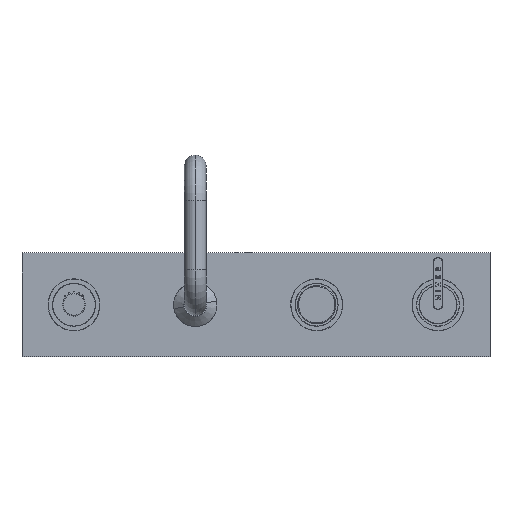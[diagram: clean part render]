
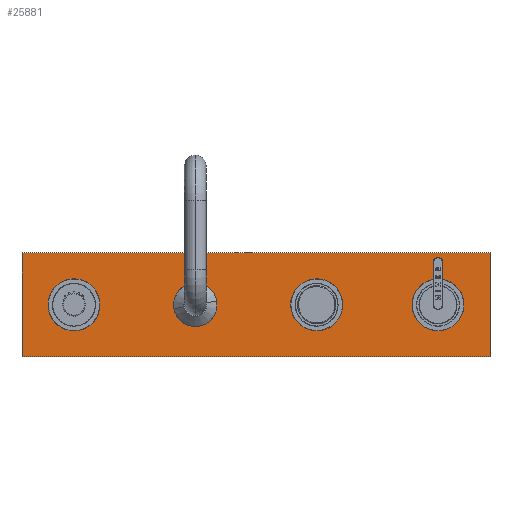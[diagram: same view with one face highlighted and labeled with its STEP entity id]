
A CAD part, top view. The second image highlights one B-rep face of the part: STEP entity #25881.
In plain terms, the highlighted planar face has unit normal (0, 0, 1).
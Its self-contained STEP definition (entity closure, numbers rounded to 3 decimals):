
#594 = ORIENTED_EDGE ( 'NONE', *, *, #28088, .T. ) ;
#1848 = DIRECTION ( 'NONE',  ( 1., 0., 0. ) ) ;
#1934 = FACE_BOUND ( 'NONE', #39242, .T. ) ;
#2667 = CARTESIAN_POINT ( 'NONE',  ( -70., 0., 30. ) ) ;
#2764 = CARTESIAN_POINT ( 'NONE',  ( 70., 0., 30. ) ) ;
#3057 = VERTEX_POINT ( 'NONE', #40860 ) ;
#3197 = CARTESIAN_POINT ( 'NONE',  ( 210., 0., 30. ) ) ;
#3587 = EDGE_CURVE ( 'NONE', #11031, #49453, #28342, .T. ) ;
#4043 = ORIENTED_EDGE ( 'NONE', *, *, #50286, .T. ) ;
#5194 = CIRCLE ( 'NONE', #23969, 15. ) ;
#5533 = DIRECTION ( 'NONE',  ( 1., 0., 0. ) ) ;
#5765 = DIRECTION ( 'NONE',  ( 0., 1., 0. ) ) ;
#5810 = EDGE_CURVE ( 'NONE', #51748, #35133, #5194, .T. ) ;
#5964 = CARTESIAN_POINT ( 'NONE',  ( 270., 60., 30. ) ) ;
#5995 = DIRECTION ( 'NONE',  ( 1., 0., 0. ) ) ;
#6361 = LINE ( 'NONE', #27189, #8443 ) ;
#6944 = ORIENTED_EDGE ( 'NONE', *, *, #51034, .F. ) ;
#7177 = DIRECTION ( 'NONE',  ( 1., 0., 0. ) ) ;
#7614 = CARTESIAN_POINT ( 'NONE',  ( 187., 0., 30. ) ) ;
#7781 = VERTEX_POINT ( 'NONE', #44185 ) ;
#8096 = EDGE_CURVE ( 'NONE', #36905, #19472, #48630, .T. ) ;
#8443 = VECTOR ( 'NONE', #34713, 1000. ) ;
#8552 = EDGE_LOOP ( 'NONE', ( #23628, #10684 ) ) ;
#9079 = DIRECTION ( 'NONE',  ( 0., 0., 1. ) ) ;
#9412 = EDGE_CURVE ( 'NONE', #28444, #13326, #38395, .T. ) ;
#9698 = CIRCLE ( 'NONE', #46390, 17.5 ) ;
#10426 = DIRECTION ( 'NONE',  ( 1., 0., 0. ) ) ;
#10505 = DIRECTION ( 'NONE',  ( 0., 0., 1. ) ) ;
#10684 = ORIENTED_EDGE ( 'NONE', *, *, #12892, .F. ) ;
#11031 = VERTEX_POINT ( 'NONE', #7614 ) ;
#11198 = DIRECTION ( 'NONE',  ( 0., 0., 1. ) ) ;
#12127 = ORIENTED_EDGE ( 'NONE', *, *, #32733, .F. ) ;
#12892 = EDGE_CURVE ( 'NONE', #35133, #51748, #50181, .T. ) ;
#12966 = CARTESIAN_POINT ( 'NONE',  ( 47., 0., 30. ) ) ;
#13326 = VERTEX_POINT ( 'NONE', #5964 ) ;
#13662 = DIRECTION ( 'NONE',  ( 0., 0., 1. ) ) ;
#13781 = ORIENTED_EDGE ( 'NONE', *, *, #8096, .F. ) ;
#14209 = FACE_BOUND ( 'NONE', #47403, .T. ) ;
#14271 = DIRECTION ( 'NONE',  ( 0., 0., 1. ) ) ;
#14458 = DIRECTION ( 'NONE',  ( 0., 0., 1. ) ) ;
#14778 = VERTEX_POINT ( 'NONE', #45826 ) ;
#14975 = DIRECTION ( 'NONE',  ( 1., 0., 0. ) ) ;
#15137 = AXIS2_PLACEMENT_3D ( 'NONE', #2667, #11198, #7177 ) ;
#16156 = ORIENTED_EDGE ( 'NONE', *, *, #33327, .T. ) ;
#16746 = ORIENTED_EDGE ( 'NONE', *, *, #3587, .F. ) ;
#17070 = AXIS2_PLACEMENT_3D ( 'NONE', #46467, #9079, #1848 ) ;
#18218 = FACE_BOUND ( 'NONE', #52083, .T. ) ;
#18485 = CARTESIAN_POINT ( 'NONE',  ( -270., 60., 30. ) ) ;
#19472 = VERTEX_POINT ( 'NONE', #12966 ) ;
#19894 = VECTOR ( 'NONE', #45694, 1000. ) ;
#20008 = CIRCLE ( 'NONE', #44801, 23. ) ;
#21186 = ORIENTED_EDGE ( 'NONE', *, *, #26488, .F. ) ;
#22107 = CARTESIAN_POINT ( 'NONE',  ( 270., -60., 30. ) ) ;
#22496 = PLANE ( 'NONE',  #46677 ) ;
#23628 = ORIENTED_EDGE ( 'NONE', *, *, #5810, .F. ) ;
#23754 = DIRECTION ( 'NONE',  ( 0., 0., 1. ) ) ;
#23969 = AXIS2_PLACEMENT_3D ( 'NONE', #25313, #41641, #5533 ) ;
#25313 = CARTESIAN_POINT ( 'NONE',  ( -210., 0., 30. ) ) ;
#25881 = ADVANCED_FACE ( 'NONE', ( #1934, #18218, #14209, #26482, #42811 ), #22496, .T. ) ;
#26290 = CARTESIAN_POINT ( 'NONE',  ( -70., 0., 30. ) ) ;
#26482 = FACE_BOUND ( 'NONE', #8552, .T. ) ;
#26488 = EDGE_CURVE ( 'NONE', #14778, #7781, #27038, .T. ) ;
#27038 = CIRCLE ( 'NONE', #15137, 17.5 ) ;
#27189 = CARTESIAN_POINT ( 'NONE',  ( -270., -60., 30. ) ) ;
#28088 = EDGE_CURVE ( 'NONE', #3057, #28444, #30652, .T. ) ;
#28342 = CIRCLE ( 'NONE', #40329, 23. ) ;
#28444 = VERTEX_POINT ( 'NONE', #29540 ) ;
#29540 = CARTESIAN_POINT ( 'NONE',  ( 270., -60., 30. ) ) ;
#29717 = AXIS2_PLACEMENT_3D ( 'NONE', #34778, #13662, #38276 ) ;
#30652 = LINE ( 'NONE', #22107, #45157 ) ;
#31345 = DIRECTION ( 'NONE',  ( 1., 0., 0. ) ) ;
#31432 = CIRCLE ( 'NONE', #29717, 23. ) ;
#32563 = CARTESIAN_POINT ( 'NONE',  ( -195., 0., 30. ) ) ;
#32632 = CARTESIAN_POINT ( 'NONE',  ( -225., 0., 30. ) ) ;
#32733 = EDGE_CURVE ( 'NONE', #49453, #11031, #31432, .T. ) ;
#33327 = EDGE_CURVE ( 'NONE', #37872, #3057, #6361, .T. ) ;
#33418 = LINE ( 'NONE', #49703, #19894 ) ;
#34713 = DIRECTION ( 'NONE',  ( 0., -1., 0. ) ) ;
#34778 = CARTESIAN_POINT ( 'NONE',  ( 210., 0., 30. ) ) ;
#34849 = VECTOR ( 'NONE', #5765, 1000. ) ;
#35133 = VERTEX_POINT ( 'NONE', #32632 ) ;
#36905 = VERTEX_POINT ( 'NONE', #44090 ) ;
#37872 = VERTEX_POINT ( 'NONE', #50270 ) ;
#38276 = DIRECTION ( 'NONE',  ( 1., 0., 0. ) ) ;
#38395 = LINE ( 'NONE', #50660, #34849 ) ;
#39242 = EDGE_LOOP ( 'NONE', ( #12127, #16746 ) ) ;
#39361 = DIRECTION ( 'NONE',  ( 0., 0., 1. ) ) ;
#39433 = EDGE_CURVE ( 'NONE', #19472, #36905, #20008, .T. ) ;
#40329 = AXIS2_PLACEMENT_3D ( 'NONE', #3197, #14458, #14975 ) ;
#40860 = CARTESIAN_POINT ( 'NONE',  ( -270., -60., 30. ) ) ;
#41641 = DIRECTION ( 'NONE',  ( 0., 0., 1. ) ) ;
#41703 = CARTESIAN_POINT ( 'NONE',  ( 233., 0., 30. ) ) ;
#42175 = DIRECTION ( 'NONE',  ( 1., 0., 0. ) ) ;
#42186 = EDGE_LOOP ( 'NONE', ( #16156, #594, #44821, #4043 ) ) ;
#42386 = ORIENTED_EDGE ( 'NONE', *, *, #39433, .F. ) ;
#42811 = FACE_OUTER_BOUND ( 'NONE', #42186, .T. ) ;
#44074 = CARTESIAN_POINT ( 'NONE',  ( -210., 0., 30. ) ) ;
#44090 = CARTESIAN_POINT ( 'NONE',  ( 93., 0., 30. ) ) ;
#44185 = CARTESIAN_POINT ( 'NONE',  ( -52.5, 0., 30. ) ) ;
#44801 = AXIS2_PLACEMENT_3D ( 'NONE', #2764, #10505, #31345 ) ;
#44821 = ORIENTED_EDGE ( 'NONE', *, *, #9412, .T. ) ;
#45157 = VECTOR ( 'NONE', #42175, 1000. ) ;
#45694 = DIRECTION ( 'NONE',  ( -1., 0., 0. ) ) ;
#45826 = CARTESIAN_POINT ( 'NONE',  ( -87.5, 0., 30. ) ) ;
#45917 = AXIS2_PLACEMENT_3D ( 'NONE', #44074, #23754, #10426 ) ;
#46390 = AXIS2_PLACEMENT_3D ( 'NONE', #26290, #14271, #5995 ) ;
#46467 = CARTESIAN_POINT ( 'NONE',  ( 70., 0., 30. ) ) ;
#46677 = AXIS2_PLACEMENT_3D ( 'NONE', #18485, #39361, #51614 ) ;
#47403 = EDGE_LOOP ( 'NONE', ( #6944, #21186 ) ) ;
#48630 = CIRCLE ( 'NONE', #17070, 23. ) ;
#49453 = VERTEX_POINT ( 'NONE', #41703 ) ;
#49703 = CARTESIAN_POINT ( 'NONE',  ( 270., 60., 30. ) ) ;
#50181 = CIRCLE ( 'NONE', #45917, 15. ) ;
#50270 = CARTESIAN_POINT ( 'NONE',  ( -270., 60., 30. ) ) ;
#50286 = EDGE_CURVE ( 'NONE', #13326, #37872, #33418, .T. ) ;
#50660 = CARTESIAN_POINT ( 'NONE',  ( 270., -60., 30. ) ) ;
#51034 = EDGE_CURVE ( 'NONE', #7781, #14778, #9698, .T. ) ;
#51614 = DIRECTION ( 'NONE',  ( 1., 0., 0. ) ) ;
#51748 = VERTEX_POINT ( 'NONE', #32563 ) ;
#52083 = EDGE_LOOP ( 'NONE', ( #13781, #42386 ) ) ;
